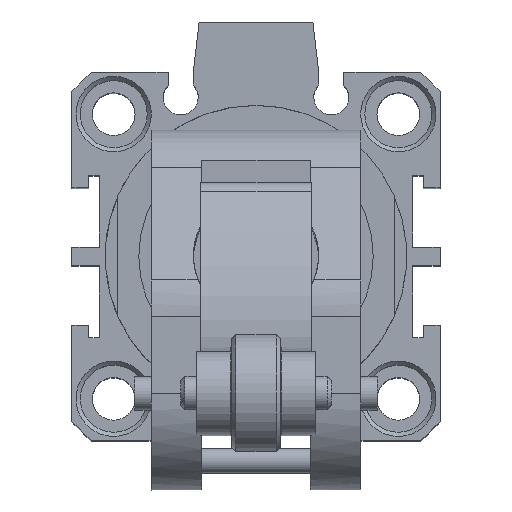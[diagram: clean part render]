
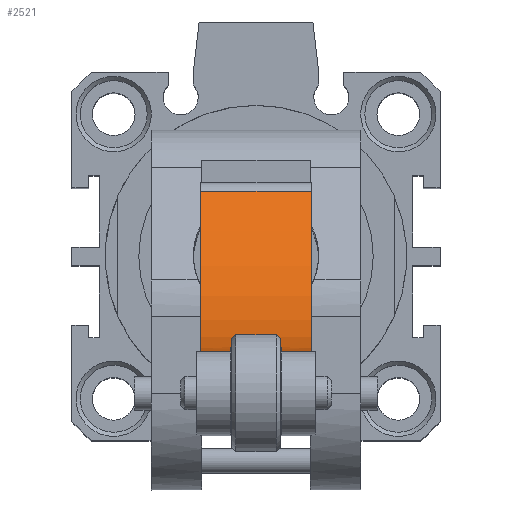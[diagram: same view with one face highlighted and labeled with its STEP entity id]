
A CAD part, top view. The second image highlights one B-rep face of the part: STEP entity #2521.
In plain terms, the highlighted cylindrical face has radius 38 mm (diameter 76 mm), a partial arc.
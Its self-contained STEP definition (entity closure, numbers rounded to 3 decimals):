
#287=CARTESIAN_POINT('',(-0.726,-11.62,153.756));
#288=VERTEX_POINT('',#287);
#297=CARTESIAN_POINT('',(-0.726,-11.145,147.762));
#298=VERTEX_POINT('',#297);
#299=CARTESIAN_POINT('',(-0.726,26.38,153.756));
#300=DIRECTION('',(-1.0,0.0,0.0));
#301=DIRECTION('',(0.0,1.0,0.0));
#302=AXIS2_PLACEMENT_3D('',#299,#300,#301);
#303=CIRCLE('',#302,38.);
#304=EDGE_CURVE('',#298,#288,#303,.T.);
#432=CARTESIAN_POINT('',(-6.726,-11.145,147.762));
#433=VERTEX_POINT('',#432);
#441=CARTESIAN_POINT('',(-6.726,-11.62,153.756));
#442=VERTEX_POINT('',#441);
#443=CARTESIAN_POINT('',(-6.726,26.38,153.756));
#444=DIRECTION('',(1.0,0.0,0.0));
#445=DIRECTION('',(0.0,1.0,0.0));
#446=AXIS2_PLACEMENT_3D('',#443,#444,#445);
#447=CIRCLE('',#446,38.);
#448=EDGE_CURVE('',#442,#433,#447,.T.);
#2273=CARTESIAN_POINT('',(2.874,7.57,120.738));
#2274=VERTEX_POINT('',#2273);
#2282=CARTESIAN_POINT('',(2.874,-11.62,153.756));
#2283=VERTEX_POINT('',#2282);
#2284=CARTESIAN_POINT('',(2.874,26.38,153.756));
#2285=DIRECTION('',(1.0,0.0,0.0));
#2286=DIRECTION('',(0.0,1.0,0.0));
#2287=AXIS2_PLACEMENT_3D('',#2284,#2285,#2286);
#2288=CIRCLE('',#2287,38.);
#2289=EDGE_CURVE('',#2283,#2274,#2288,.T.);
#2316=CARTESIAN_POINT('',(-10.326,-11.62,153.756));
#2317=VERTEX_POINT('',#2316);
#2324=CARTESIAN_POINT('',(-10.326,7.57,120.738));
#2325=VERTEX_POINT('',#2324);
#2326=CARTESIAN_POINT('',(-10.326,26.38,153.756));
#2327=DIRECTION('',(-1.0,0.0,0.0));
#2328=DIRECTION('',(0.0,1.0,0.0));
#2329=AXIS2_PLACEMENT_3D('',#2326,#2327,#2328);
#2330=CIRCLE('',#2329,38.);
#2331=EDGE_CURVE('',#2325,#2317,#2330,.T.);
#2482=CARTESIAN_POINT('',(-6.726,-11.145,147.762));
#2483=DIRECTION('',(1.0,0.0,0.0));
#2484=VECTOR('',#2483,6.);
#2485=LINE('',#2482,#2484);
#2486=EDGE_CURVE('',#433,#298,#2485,.T.);
#2491=CARTESIAN_POINT('',(-3.726,26.38,153.756));
#2492=DIRECTION('',(1.0,0.,0.0));
#2493=DIRECTION('',(0.0,1.0,0.0));
#2494=AXIS2_PLACEMENT_3D('',#2491,#2492,#2493);
#2495=CYLINDRICAL_SURFACE('',#2494,38.);
#2496=ORIENTED_EDGE('',*,*,#448,.T.);
#2497=ORIENTED_EDGE('',*,*,#2486,.T.);
#2498=ORIENTED_EDGE('',*,*,#304,.T.);
#2499=CARTESIAN_POINT('',(-0.726,-11.62,153.756));
#2500=DIRECTION('',(1.0,0.0,0.0));
#2501=VECTOR('',#2500,3.6);
#2502=LINE('',#2499,#2501);
#2503=EDGE_CURVE('',#288,#2283,#2502,.T.);
#2504=ORIENTED_EDGE('',*,*,#2503,.T.);
#2505=ORIENTED_EDGE('',*,*,#2289,.T.);
#2506=CARTESIAN_POINT('',(-10.326,7.57,120.738));
#2507=DIRECTION('',(1.0,0.0,0.0));
#2508=VECTOR('',#2507,13.2);
#2509=LINE('',#2506,#2508);
#2510=EDGE_CURVE('',#2325,#2274,#2509,.T.);
#2511=ORIENTED_EDGE('',*,*,#2510,.F.);
#2512=ORIENTED_EDGE('',*,*,#2331,.T.);
#2513=CARTESIAN_POINT('',(-10.326,-11.62,153.756));
#2514=DIRECTION('',(1.0,0.0,0.0));
#2515=VECTOR('',#2514,3.6);
#2516=LINE('',#2513,#2515);
#2517=EDGE_CURVE('',#2317,#442,#2516,.T.);
#2518=ORIENTED_EDGE('',*,*,#2517,.T.);
#2519=EDGE_LOOP('',(#2496,#2497,#2498,#2504,#2505,#2511,#2512,#2518));
#2520=FACE_OUTER_BOUND('',#2519,.T.);
#2521=ADVANCED_FACE('',(#2520),#2495,.F.);
